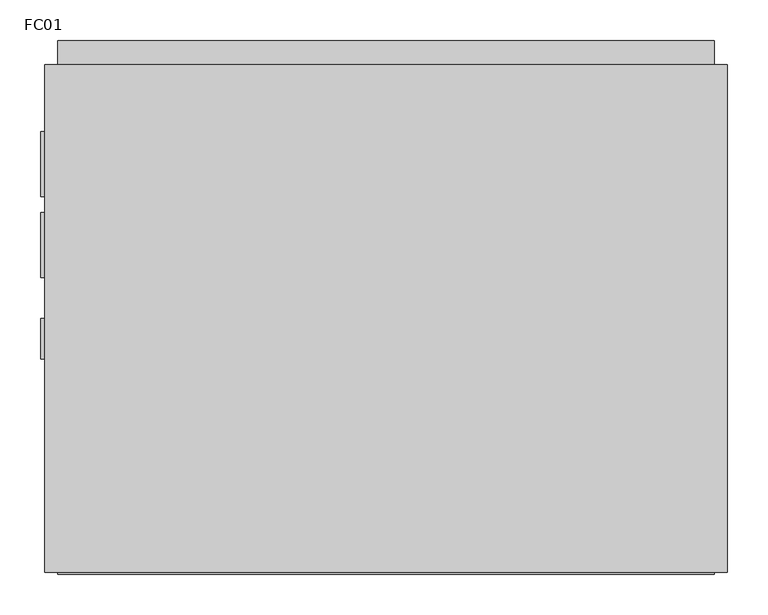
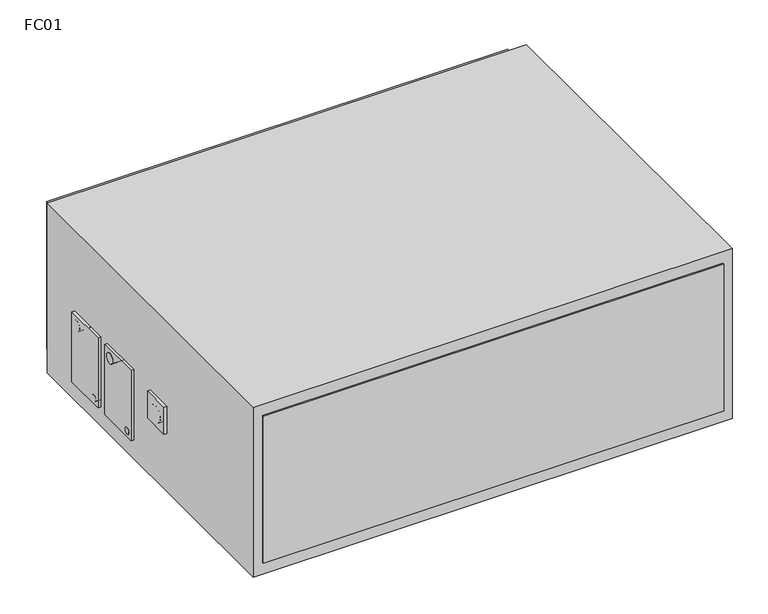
"""IFC4 building model written with IfcOpenShell, lengths in millimetres: proxy geometry, ARC_MDL_ME_UI_FC_ConducteSostre : FC01."""

from ifc_helpers import new_model, si_unit, point, frame, frame_2d, origin, origin_with_axes, place, context, project, spatial, polyline, circle_curve, trimmed, segment, composite_curve, outline, extrude, source, transform, mapped, element, save


def fc01_db58e849(model_context):
    return source(origin(), model_context, "Body", "SweptSolid", [
        extrude(outline(polyline([(-420.0, 0.0), (-420.0, -50.0), (-425.0, -50.0), (-425.0, 0.0), (-420.0, 0.0)])), frame((0.0, 0.0, 107.5), z_axis=(0.0, 0.0, 1.0), x_axis=(1.0, 0.0, 0.0)), (0.0, 0.0, 1.0), 50.0),
        extrude(outline(composite_curve([segment(trimmed(circle_curve(frame_2d((-24.7079935, 130.3304909)), 15.0), [point((-39.7079935, 130.3304909))], [point((-9.7079935, 130.3304909))], False, "CARTESIAN"), True, "CONTINUOUS"), segment(trimmed(circle_curve(frame_2d((-24.7079935, 130.3304909)), 15.0), [point((-9.7079935, 130.3304909))], [point((-39.7079935, 130.3304909))], False, "CARTESIAN"), True, "CONTINUOUS")], self_intersect=False)), frame((-425.0, 0.0, 0.0), z_axis=(1.0, 0.0, 0.0), x_axis=(0.0, 1.0, 0.0)), (0.0, 0.0, 1.0), 21.0),
        extrude(outline(composite_curve([segment(trimmed(circle_curve(frame_2d((114.7963752, 148.4371519)), 9.5), [point((105.2963752, 148.4371519))], [point((124.2963752, 148.4371519))], False, "CARTESIAN"), True, "CONTINUOUS"), segment(trimmed(circle_curve(frame_2d((114.7963752, 148.4371519)), 9.5), [point((124.2963752, 148.4371519))], [point((105.2963752, 148.4371519))], False, "CARTESIAN"), True, "CONTINUOUS")], self_intersect=False)), frame((-425.0, 0.0, 0.0), z_axis=(1.0, 0.0, 0.0), x_axis=(0.0, 1.0, 0.0)), (0.0, 0.0, 1.0), 21.0),
        extrude(outline(composite_curve([segment(trimmed(circle_curve(frame_2d((62.2775327, 46.100092)), 6.0), [point((56.2775327, 46.100092))], [point((68.2775327, 46.100092))], False, "CARTESIAN"), True, "CONTINUOUS"), segment(trimmed(circle_curve(frame_2d((62.2775327, 46.100092)), 6.0), [point((68.2775327, 46.100092))], [point((56.2775327, 46.100092))], False, "CARTESIAN"), True, "CONTINUOUS")], self_intersect=False)), frame((-425.0, 0.0, 0.0), z_axis=(1.0, 0.0, 0.0), x_axis=(0.0, 1.0, 0.0)), (0.0, 0.0, 1.0), 21.0),
        extrude(outline(polyline([(-420.0, 130.0), (-420.0, 50.0), (-425.0, 50.0), (-425.0, 130.0), (-420.0, 130.0)])), frame((0.0, 0.0, 35.0), z_axis=(0.0, 0.0, 1.0), x_axis=(1.0, 0.0, 0.0)), (0.0, 0.0, 1.0), 130.0),
        extrude(outline(polyline([(-420.0, 230.0), (-420.0, 150.0), (-425.0, 150.0), (-425.0, 230.0), (-420.0, 230.0)])), frame((0.0, 0.0, 35.0), z_axis=(0.0, 0.0, 1.0), x_axis=(1.0, 0.0, 0.0)), (0.0, 0.0, 1.0), 130.0),
        extrude(outline(composite_curve([segment(trimmed(circle_curve(frame_2d((214.7963752, 148.4371519)), 9.5), [point((205.2963752, 148.4371519))], [point((224.2963752, 148.4371519))], False, "CARTESIAN"), True, "CONTINUOUS"), segment(trimmed(circle_curve(frame_2d((214.7963752, 148.4371519)), 9.5), [point((224.2963752, 148.4371519))], [point((205.2963752, 148.4371519))], False, "CARTESIAN"), True, "CONTINUOUS")], self_intersect=False)), frame((-425.0, 0.0, 0.0), z_axis=(1.0, 0.0, 0.0), x_axis=(0.0, 1.0, 0.0)), (0.0, 0.0, 1.0), 21.0),
        extrude(outline(composite_curve([segment(trimmed(circle_curve(frame_2d((162.2775327, 46.100092)), 6.0), [point((156.2775327, 46.100092))], [point((168.2775327, 46.100092))], False, "CARTESIAN"), True, "CONTINUOUS"), segment(trimmed(circle_curve(frame_2d((162.2775327, 46.100092)), 6.0), [point((168.2775327, 46.100092))], [point((156.2775327, 46.100092))], False, "CARTESIAN"), True, "CONTINUOUS")], self_intersect=False)), frame((-425.0, 0.0, 0.0), z_axis=(1.0, 0.0, 0.0), x_axis=(0.0, 1.0, 0.0)), (0.0, 0.0, 1.0), 21.0),
        extrude(outline(polyline([(404.0, -315.0), (-404.0, -315.0), (-404.0, 342.0), (404.0, 342.0), (404.0, -315.0)])), frame((0.0, 0.0, 21.0), z_axis=(0.0, 0.0, 1.0), x_axis=(1.0, 0.0, 0.0)), (0.0, 0.0, 1.0), 273.0),
        extrude(outline(polyline([(420.0, 312.5), (420.0, -312.5), (-420.0, -312.5), (-420.0, 312.5), (420.0, 312.5)])), origin_with_axes(), (0.0, 0.0, 1.0), 315.0),
    ])


if __name__ == "__main__":
    model = new_model("IFC4")
    model_context = context("Model", 3, world=origin())
    ifc_project = project(units=[si_unit("LENGTHUNIT", "METRE", prefix="MILLI")], contexts=[model_context])
    site = spatial("IfcSite", under=ifc_project)
    building = spatial("IfcBuilding", under=site)
    placement = place(None, origin())
    fc01_shape = fc01_db58e849(model_context)
    element("IfcBuildingElementProxy", 1, Name="ARC_MDL_ME_UI_FC_ConducteSostre : FC01", ObjectType="ARC_MDL_ME_UI_FC_ConducteSostre : FC01", at=placement, inside=building, context=model_context, shape_type="MappedRepresentation", body=[
        mapped(fc01_shape, transform((0.0, 0.0, 0.0), x_axis=(1.0, 0.0, 0.0), y_axis=(0.0, 1.0, 0.0), z_axis=(0.0, 0.0, 1.0))),
    ])
    save(model, "model.ifc")
